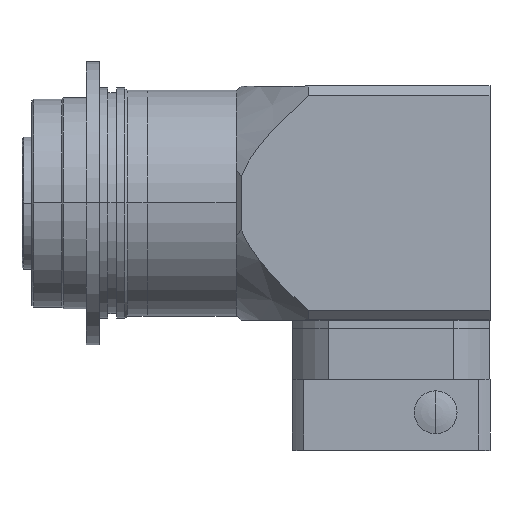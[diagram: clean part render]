
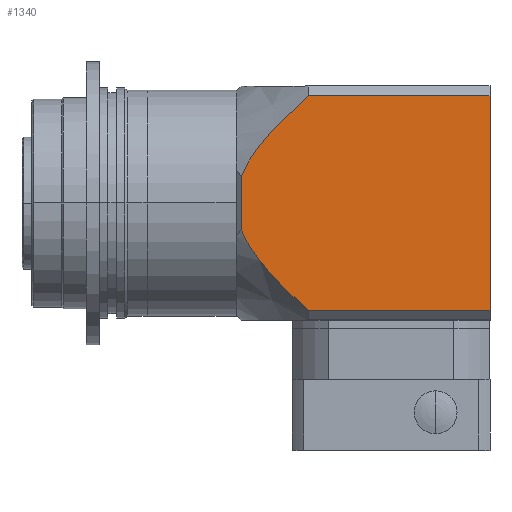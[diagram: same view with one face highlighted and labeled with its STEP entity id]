
A CAD part, top view. The second image highlights one B-rep face of the part: STEP entity #1340.
In plain terms, the highlighted planar face has unit normal (0, 0, 1).
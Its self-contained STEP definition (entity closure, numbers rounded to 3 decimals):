
#630 = AXIS2_PLACEMENT_3D ( 'NONE', #5440, #7169, #19229 ) ;
#738 = CARTESIAN_POINT ( 'NONE',  ( 19.835, 30.755, 35.5 ) ) ;
#755 = CARTESIAN_POINT ( 'NONE',  ( 8.532, -19.362, 35.5 ) ) ;
#819 = CARTESIAN_POINT ( 'NONE',  ( 6.824, 17.209, 35.5 ) ) ;
#842 = VERTEX_POINT ( 'NONE', #9891 ) ;
#1340 = ADVANCED_FACE ( 'NONE', ( #20230 ), #15756, .T. ) ;
#1709 = ORIENTED_EDGE ( 'NONE', *, *, #22336, .T. ) ;
#2425 = CARTESIAN_POINT ( 'NONE',  ( 1.978, -9.16, 35.5 ) ) ;
#2495 = CARTESIAN_POINT ( 'NONE',  ( 12.083, -23.386, 35.5 ) ) ;
#2557 = CARTESIAN_POINT ( 'NONE',  ( 4.519, 13.896, 35.5 ) ) ;
#2735 = VERTEX_POINT ( 'NONE', #5297 ) ;
#2795 = DIRECTION ( 'NONE',  ( 0., -1., 0. ) ) ;
#3218 = VERTEX_POINT ( 'NONE', #17412 ) ;
#3281 = ORIENTED_EDGE ( 'NONE', *, *, #12152, .T. ) ;
#3742 = B_SPLINE_CURVE_WITH_KNOTS ( 'NONE', 3,
 ( #14571, #738, #7703, #19773, #9411, #21517, #11170, #819, #12897, #2557, #14640, #4303, #16378, #6057, #18130, #7773 ),
 .UNSPECIFIED., .F., .F.,
 ( 4, 2, 2, 2, 2, 2, 2, 4 ),
 ( 0.054, 0.063, 0.071, 0.075, 0.079, 0.083, 0.085, 0.087 ),
 .UNSPECIFIED. ) ;
#4236 = CARTESIAN_POINT ( 'NONE',  ( 17.841, -28.975, 35.5 ) ) ;
#4263 = DIRECTION ( 'NONE',  ( 1., 0., 0. ) ) ;
#4303 = CARTESIAN_POINT ( 'NONE',  ( 2.857, 10.962, 35.5 ) ) ;
#5297 = CARTESIAN_POINT ( 'NONE',  ( 77., -32.5, 35.5 ) ) ;
#5440 = CARTESIAN_POINT ( 'NONE',  ( 0., 0., 35.5 ) ) ;
#5929 = CARTESIAN_POINT ( 'NONE',  ( 2.546, -10.384, 35.5 ) ) ;
#6002 = CARTESIAN_POINT ( 'NONE',  ( 21.876, -32.5, 35.5 ) ) ;
#6029 = DIRECTION ( 'NONE',  ( -1., 0., 0. ) ) ;
#6057 = CARTESIAN_POINT ( 'NONE',  ( 1.994, 9.132, 35.5 ) ) ;
#6528 = EDGE_LOOP ( 'NONE', ( #15297, #3281, #7759, #18193, #1709, #9160 ) ) ;
#6852 = VERTEX_POINT ( 'NONE', #15298 ) ;
#6869 = CARTESIAN_POINT ( 'NONE',  ( 21.876, -32.5, 35.5 ) ) ;
#7169 = DIRECTION ( 'NONE',  ( 0., 0., 1. ) ) ;
#7653 = CARTESIAN_POINT ( 'NONE',  ( 4.527, -13.909, 35.5 ) ) ;
#7703 = CARTESIAN_POINT ( 'NONE',  ( 17.833, 28.968, 35.5 ) ) ;
#7759 = ORIENTED_EDGE ( 'NONE', *, *, #11174, .T. ) ;
#7773 = CARTESIAN_POINT ( 'NONE',  ( 1.5, 7.889, 35.5 ) ) ;
#7863 = EDGE_CURVE ( 'NONE', #6852, #14925, #11357, .T. ) ;
#8417 = LINE ( 'NONE', #8754, #12485 ) ;
#8754 = CARTESIAN_POINT ( 'NONE',  ( 77., -38., 35.5 ) ) ;
#9160 = ORIENTED_EDGE ( 'NONE', *, *, #10944, .T. ) ;
#9350 = CARTESIAN_POINT ( 'NONE',  ( 6.058, -16.149, 35.5 ) ) ;
#9411 = CARTESIAN_POINT ( 'NONE',  ( 12.062, 23.364, 35.5 ) ) ;
#9727 = CARTESIAN_POINT ( 'NONE',  ( 1.5, -35.5, 35.5 ) ) ;
#9891 = CARTESIAN_POINT ( 'NONE',  ( 1.5, 7.889, 35.5 ) ) ;
#9910 = LINE ( 'NONE', #16348, #18047 ) ;
#10323 = LINE ( 'NONE', #11215, #13839 ) ;
#10587 = EDGE_CURVE ( 'NONE', #11285, #3218, #10323, .T. ) ;
#10944 = EDGE_CURVE ( 'NONE', #2735, #11285, #8417, .T. ) ;
#11116 = CARTESIAN_POINT ( 'NONE',  ( 7.274, -17.777, 35.5 ) ) ;
#11170 = CARTESIAN_POINT ( 'NONE',  ( 8.501, 19.324, 35.5 ) ) ;
#11174 = EDGE_CURVE ( 'NONE', #842, #6852, #13276, .T. ) ;
#11215 = CARTESIAN_POINT ( 'NONE',  ( 0., 32.5, 35.5 ) ) ;
#11285 = VERTEX_POINT ( 'NONE', #20278 ) ;
#11357 = B_SPLINE_CURVE_WITH_KNOTS ( 'NONE', 3,
 ( #14503, #2425, #5929, #17989, #7653, #19716, #9350, #21461, #11116, #755, #12831, #2495, #14582, #4236, #16323, #6002 ),
 .UNSPECIFIED., .F., .F.,
 ( 4, 2, 2, 2, 2, 2, 2, 4 ),
 ( 0.103, 0.107, 0.111, 0.113, 0.115, 0.119, 0.127, 0.135 ),
 .UNSPECIFIED. ) ;
#12152 = EDGE_CURVE ( 'NONE', #3218, #842, #3742, .T. ) ;
#12485 = VECTOR ( 'NONE', #19113, 1000. ) ;
#12831 = CARTESIAN_POINT ( 'NONE',  ( 9.402, -20.386, 35.5 ) ) ;
#12897 = CARTESIAN_POINT ( 'NONE',  ( 6.023, 16.126, 35.5 ) ) ;
#13276 = LINE ( 'NONE', #9727, #21943 ) ;
#13839 = VECTOR ( 'NONE', #6029, 1000. ) ;
#14503 = CARTESIAN_POINT ( 'NONE',  ( 1.5, -7.889, 35.5 ) ) ;
#14571 = CARTESIAN_POINT ( 'NONE',  ( 21.876, 32.5, 35.5 ) ) ;
#14582 = CARTESIAN_POINT ( 'NONE',  ( 13.963, -25.289, 35.5 ) ) ;
#14640 = CARTESIAN_POINT ( 'NONE',  ( 3.815, 12.749, 35.5 ) ) ;
#14925 = VERTEX_POINT ( 'NONE', #6869 ) ;
#15297 = ORIENTED_EDGE ( 'NONE', *, *, #10587, .T. ) ;
#15298 = CARTESIAN_POINT ( 'NONE',  ( 1.5, -7.889, 35.5 ) ) ;
#15756 = PLANE ( 'NONE',  #630 ) ;
#16323 = CARTESIAN_POINT ( 'NONE',  ( 19.839, -30.758, 35.5 ) ) ;
#16348 = CARTESIAN_POINT ( 'NONE',  ( 77., -32.5, 35.5 ) ) ;
#16378 = CARTESIAN_POINT ( 'NONE',  ( 2.554, 10.355, 35.5 ) ) ;
#17412 = CARTESIAN_POINT ( 'NONE',  ( 21.876, 32.5, 35.5 ) ) ;
#17989 = CARTESIAN_POINT ( 'NONE',  ( 3.821, -12.758, 35.5 ) ) ;
#18047 = VECTOR ( 'NONE', #4263, 1000. ) ;
#18130 = CARTESIAN_POINT ( 'NONE',  ( 1.735, 8.514, 35.5 ) ) ;
#18193 = ORIENTED_EDGE ( 'NONE', *, *, #7863, .T. ) ;
#19113 = DIRECTION ( 'NONE',  ( 0., 1., 0. ) ) ;
#19229 = DIRECTION ( 'NONE',  ( 1., 0., 0. ) ) ;
#19716 = CARTESIAN_POINT ( 'NONE',  ( 5.664, -15.593, 35.5 ) ) ;
#19773 = CARTESIAN_POINT ( 'NONE',  ( 13.947, 25.273, 35.5 ) ) ;
#20230 = FACE_OUTER_BOUND ( 'NONE', #6528, .T. ) ;
#20278 = CARTESIAN_POINT ( 'NONE',  ( 77., 32.5, 35.5 ) ) ;
#21461 = CARTESIAN_POINT ( 'NONE',  ( 6.862, -17.241, 35.5 ) ) ;
#21517 = CARTESIAN_POINT ( 'NONE',  ( 9.374, 20.355, 35.5 ) ) ;
#21943 = VECTOR ( 'NONE', #2795, 1000. ) ;
#22336 = EDGE_CURVE ( 'NONE', #14925, #2735, #9910, .T. ) ;
